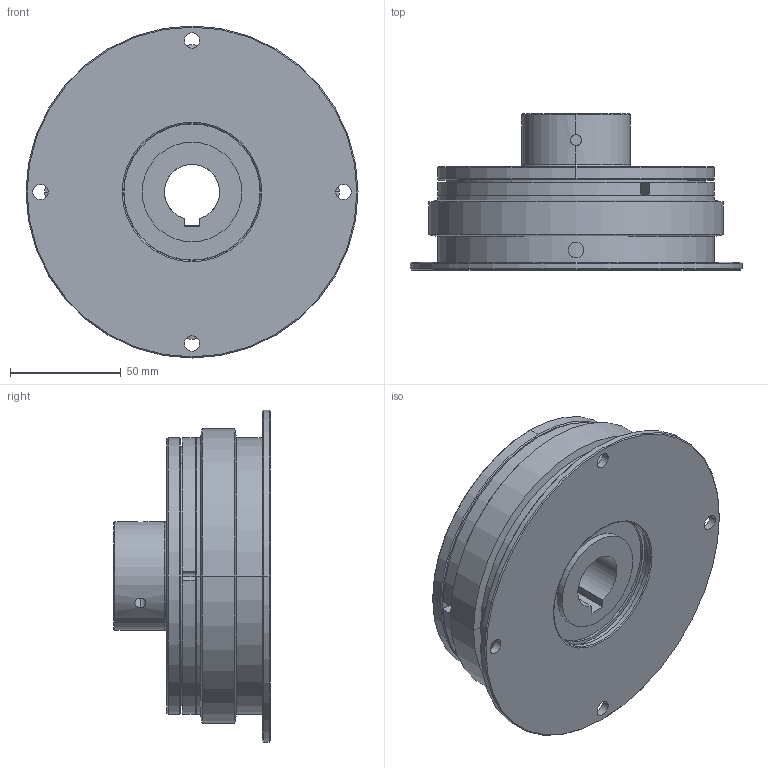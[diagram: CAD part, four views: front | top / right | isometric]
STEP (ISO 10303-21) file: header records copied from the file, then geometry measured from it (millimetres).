
FILE_DESCRIPTION (( 'STEP AP214' ), '1' );
FILE_NAME ('C-M40-F02-25.STEP', '2016-03-11T08:05:48', ( 'tec4' ), ( '' ), 'SwSTEP 2.0', 'SolidWorks 2015', '' );
FILE_SCHEMA (( 'AUTOMOTIVE_DESIGN' ));
Length unit declared in the file: millimetre
Products named in the file (7): 01_5M40-42119-25; C-M40-F02-25; 5M40-11119; 01_5M40-21009-25; 01_5M40-41109; 5M40-41129; 5M40-41119
Assembly tree (6 placements, depth 3):
  C-M40-F02-25
    01_5M40-42119-25
    01_5M40-41109
      5M40-41119
      5M40-41129
    01_5M40-21009-25
    5M40-11119
Bounding box: 150 x 70.65 x 150 mm (x, y, z)
Volume: 398857.8 mm3; surface area: 170163.4 mm2
Topology: 5 solids, 5 shells, 222 faces, 557 edges, 354 vertices
Faces by surface type: cylinder 137, plane 40, cone 39, torus 6
Entity records: 7671 total; most frequent: CARTESIAN_POINT 1525, DIRECTION 1305, ORIENTED_EDGE 1106, EDGE_CURVE 553, AXIS2_PLACEMENT_3D 538, VERTEX_POINT 354, EDGE_LOOP 307, CIRCLE 306
